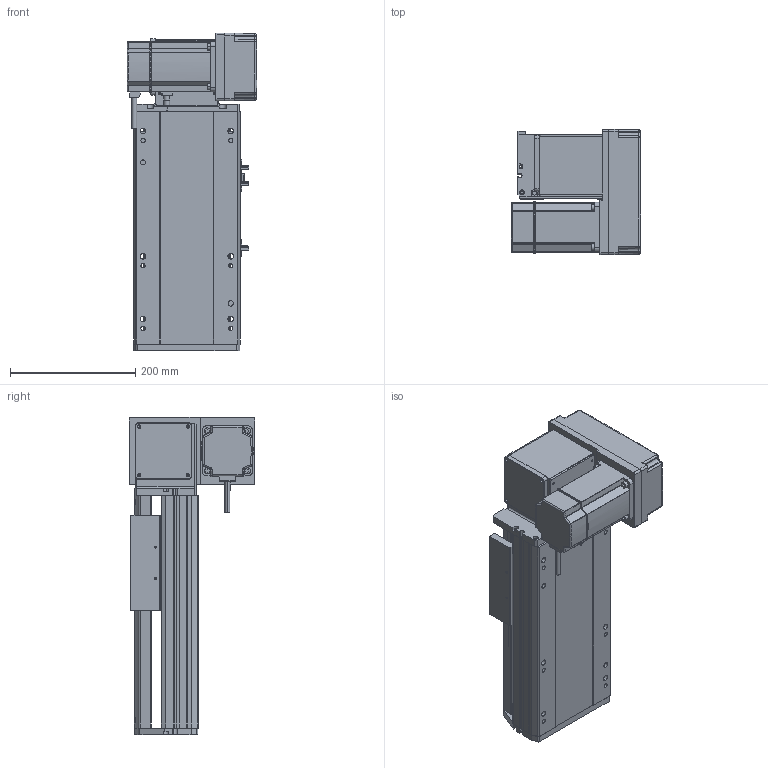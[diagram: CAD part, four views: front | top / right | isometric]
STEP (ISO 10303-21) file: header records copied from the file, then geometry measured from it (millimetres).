
FILE_DESCRIPTION (( 'STEP AP214' ), '1' );
FILE_NAME ('RTB17S-XX-100-RM-M75-C4.STEP', '2025-12-12T01:59:19', ( '' ), ( '' ), 'SwSTEP 2.0', 'SolidWorks 2018', '' );
FILE_SCHEMA (( 'AUTOMOTIVE_DESIGN' ));
Length unit declared in the file: millimetre
Products named in the file (15): 750W萇儂^RTB17S-XX-XX-RM-M75-C4; RTB17S-賑釱^RTB17S-XX-XX-RM-M75-C4; RTH13-BL-012覜茼え俋离^RTB17S-賑釱_RTB17S-XX-XX-RM-M75-C4; RTB17-R-011菁釱^RTB17S-XX-XX-RM-M75-C4; RTB22S-GY-005P^RTB17S-RM-々湍釱蚾饜-750W_RTB17S-XX-XX-RM-M75-C4; RTB17S-XX-100-RM-M75-C4; RTB17S-L-004-賑釱^RTB17S-賑釱_RTB17S-XX-XX-RM-M75-C4; RTB22S-GY-017P^RTB17S-RM-々湍釱蚾饜-750W_RTB17S-XX-XX-RM-M75-C4; RTB17S-L-001-耜醱啣^RTB17S-XX-XX-RM-M75-C4; RTB22S-GY-018P^RTB17S-RM-々湍釱蚾饜-750W_RTB17S-XX-XX-RM-M75-C4; EE672^RTB17S-XX-XX-RM-M75-C4; RTB22S-GY-008-M75--萇儂啣^RTB17S-RM-々湍釱蚾饜-750W_RTB17S-XX-XX-RM-M75-C4; RTB17S-RM-々湍釱蚾饜-750W^RTB17S-XX-XX-RM-M75-C4; RTB17S-L-014-T20-P75--々湍釱^RTB17S-RM-々湍釱蚾饜-750W_RTB17S-XX-XX-RM-M75-C4; RTB17S-L-007奻裔^RTB17S-XX-XX-RM-M75-C4
Assembly tree (17 placements, depth 3):
  RTB17S-XX-100-RM-M75-C4
    RTB17-R-011菁釱^RTB17S-XX-XX-RM-M75-C4
    EE672^RTB17S-XX-XX-RM-M75-C4  x3
    RTB17S-L-001-耜醱啣^RTB17S-XX-XX-RM-M75-C4
    RTB17S-賑釱^RTB17S-XX-XX-RM-M75-C4
      RTB17S-L-004-賑釱^RTB17S-賑釱_RTB17S-XX-XX-RM-M75-C4
      RTH13-BL-012覜茼え俋离^RTB17S-賑釱_RTB17S-XX-XX-RM-M75-C4
    RTB17S-L-007奻裔^RTB17S-XX-XX-RM-M75-C4
    750W萇儂^RTB17S-XX-XX-RM-M75-C4
    RTB17S-RM-々湍釱蚾饜-750W^RTB17S-XX-XX-RM-M75-C4
      RTB17S-L-014-T20-P75--々湍釱^RTB17S-RM-々湍釱蚾饜-750W_RTB17S-XX-XX-RM-M75-C4
      RTB22S-GY-005P^RTB17S-RM-々湍釱蚾饜-750W_RTB17S-XX-XX-RM-M75-C4
      RTB22S-GY-017P^RTB17S-RM-々湍釱蚾饜-750W_RTB17S-XX-XX-RM-M75-C4  x2
      RTB22S-GY-008-M75--萇儂啣^RTB17S-RM-々湍釱蚾饜-750W_RTB17S-XX-XX-RM-M75-C4
      RTB22S-GY-018P^RTB17S-RM-々湍釱蚾饜-750W_RTB17S-XX-XX-RM-M75-C4
Bounding box: 207.4 x 200 x 507.5 mm (x, y, z)
Volume: 6572475 mm3; surface area: 966322.1 mm2
Topology: 17 solids, 17 shells, 2025 faces, 5566 edges, 3590 vertices
Faces by surface type: plane 962, cylinder 647, bspline 294, cone 110, sphere 8, torus 4
Entity records: 55030 total; most frequent: CARTESIAN_POINT 16030, ORIENTED_EDGE 7976, DIRECTION 7502, EDGE_CURVE 3988, AXIS2_PLACEMENT_3D 2610, VERTEX_POINT 2594, VECTOR 2282, LINE 2282
